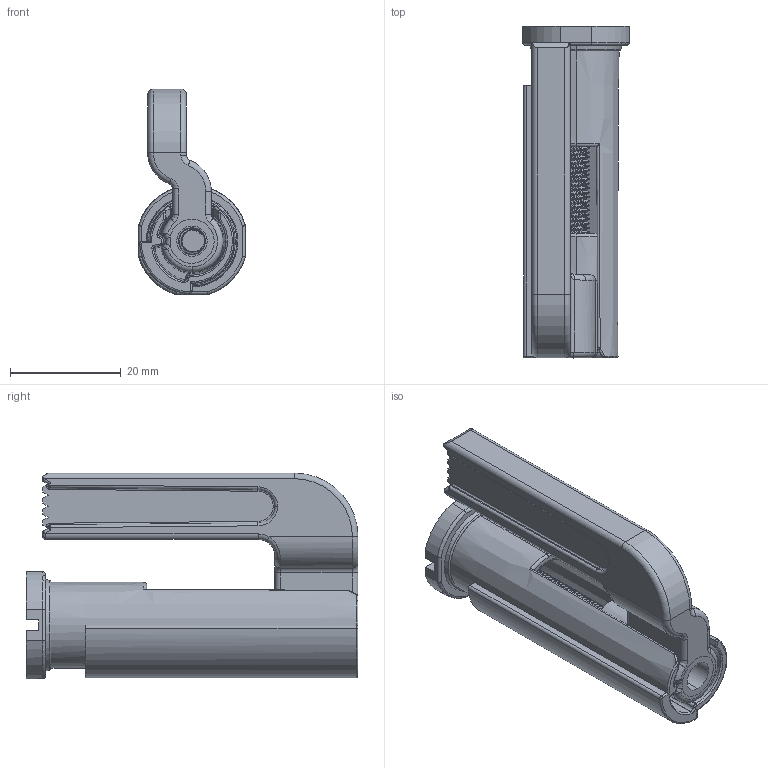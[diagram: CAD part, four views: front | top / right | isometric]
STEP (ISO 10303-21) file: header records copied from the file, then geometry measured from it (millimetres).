
FILE_DESCRIPTION (( 'STEP AP214' ), '1' );
FILE_NAME ('Êîìïëåêò äëÿ ìîíòàæà â ïîëûå ñòåíû.STEP', '2024-11-07T08:11:04', ( '' ), ( '' ), 'SwSTEP 2.0', 'SolidWorks 2018', '' );
FILE_SCHEMA (( 'AUTOMOTIVE_DESIGN' ));
Length unit declared in the file: millimetre
Products named in the file (4): G08-02-P00V V1.9___; G08-03-P00V V1.9___; G08-01-P00V V1.9___; Êîìïëåêò äëÿ ìîíòàæà â ïîëûå ñòåíû
Assembly tree (3 placements, depth 2):
  Êîìïëåêò äëÿ ìîíòàæà â ïîëûå ñòåíû
    G08-01-P00V V1.9___
    G08-02-P00V V1.9___
    G08-03-P00V V1.9___
Bounding box: 19.4 x 60 x 37.2 mm (x, y, z)
Volume: 13473.4 mm3; surface area: 10809.2 mm2
Topology: 3 solids, 3 shells, 319 faces, 775 edges, 462 vertices
Faces by surface type: plane 87, cylinder 69, torus 65, bspline 64, cone 33, sphere 1
Entity records: 62178 total; most frequent: CARTESIAN_POINT 54803, ORIENTED_EDGE 1538, DIRECTION 1367, EDGE_CURVE 769, AXIS2_PLACEMENT_3D 552, VERTEX_POINT 462, EDGE_LOOP 329, ADVANCED_FACE 319
